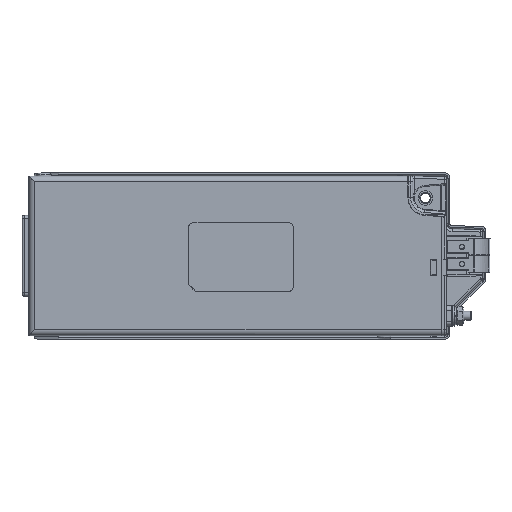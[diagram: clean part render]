
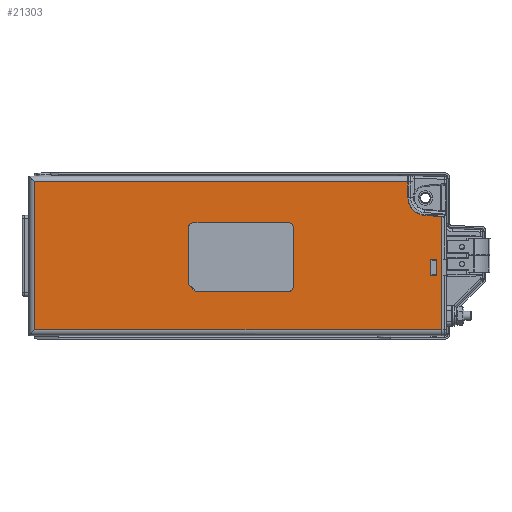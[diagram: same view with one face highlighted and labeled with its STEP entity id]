
A CAD part, top view. The second image highlights one B-rep face of the part: STEP entity #21303.
In plain terms, the highlighted planar face has unit normal (0, 0, 1).
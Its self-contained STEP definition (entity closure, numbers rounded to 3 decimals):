
#580=FACE_BOUND('',#3222,.T.);
#581=FACE_BOUND('',#3223,.T.);
#892=PLANE('',#22784);
#2028=FACE_OUTER_BOUND('',#3221,.T.);
#3221=EDGE_LOOP('',(#15912,#15913,#15914,#15915,#15916,#15917,#15918,#15919));
#3222=EDGE_LOOP('',(#15920,#15921,#15922,#15923));
#3223=EDGE_LOOP('',(#15924,#15925,#15926,#15927,#15928,#15929,#15930,#15931,
#15932,#15933));
#4848=LINE('',#32958,#6939);
#4852=LINE('',#32970,#6943);
#4856=LINE('',#32981,#6947);
#4860=LINE('',#32989,#6951);
#4863=LINE('',#32993,#6954);
#4864=LINE('',#32998,#6955);
#4865=LINE('',#33000,#6956);
#4866=LINE('',#33002,#6957);
#4867=LINE('',#33004,#6958);
#4868=LINE('',#33006,#6959);
#4869=LINE('',#33010,#6960);
#4870=LINE('',#33011,#6961);
#4871=LINE('',#33014,#6962);
#4872=LINE('',#33016,#6963);
#4873=LINE('',#33018,#6964);
#4874=LINE('',#33019,#6965);
#4875=LINE('',#33020,#6966);
#4876=LINE('',#33021,#6967);
#6939=VECTOR('',#26229,10.);
#6943=VECTOR('',#26241,10.);
#6947=VECTOR('',#26253,10.);
#6951=VECTOR('',#26259,10.);
#6954=VECTOR('',#26264,10.);
#6955=VECTOR('',#26269,10.);
#6956=VECTOR('',#26270,10.);
#6957=VECTOR('',#26271,10.);
#6958=VECTOR('',#26272,10.);
#6959=VECTOR('',#26273,10.);
#6960=VECTOR('',#26276,10.);
#6961=VECTOR('',#26277,10.);
#6962=VECTOR('',#26278,10.);
#6963=VECTOR('',#26279,10.);
#6964=VECTOR('',#26280,10.);
#6965=VECTOR('',#26281,10.);
#6966=VECTOR('',#26282,10.);
#6967=VECTOR('',#26283,10.);
#8378=CIRCLE('',#22771,2.);
#8380=CIRCLE('',#22775,2.);
#8382=CIRCLE('',#22779,2.);
#8383=CIRCLE('',#22785,7.7);
#9534=VERTEX_POINT('',#32935);
#9538=VERTEX_POINT('',#32942);
#9539=VERTEX_POINT('',#32944);
#9542=VERTEX_POINT('',#32951);
#9543=VERTEX_POINT('',#32953);
#9544=VERTEX_POINT('',#32957);
#9547=VERTEX_POINT('',#32965);
#9548=VERTEX_POINT('',#32969);
#9551=VERTEX_POINT('',#32977);
#9554=VERTEX_POINT('',#32988);
#9555=VERTEX_POINT('',#32996);
#9556=VERTEX_POINT('',#32997);
#9557=VERTEX_POINT('',#32999);
#9558=VERTEX_POINT('',#33001);
#9559=VERTEX_POINT('',#33003);
#9560=VERTEX_POINT('',#33005);
#9561=VERTEX_POINT('',#33007);
#9562=VERTEX_POINT('',#33009);
#9563=VERTEX_POINT('',#33012);
#9564=VERTEX_POINT('',#33013);
#9565=VERTEX_POINT('',#33015);
#9566=VERTEX_POINT('',#33017);
#11836=EDGE_CURVE('',#9543,#9542,#8378,.T.);
#11838=EDGE_CURVE('',#9544,#9543,#4848,.T.);
#11842=EDGE_CURVE('',#9547,#9544,#8380,.T.);
#11844=EDGE_CURVE('',#9548,#9547,#4852,.T.);
#11848=EDGE_CURVE('',#9551,#9548,#8382,.T.);
#11850=EDGE_CURVE('',#9534,#9551,#4856,.T.);
#11854=EDGE_CURVE('',#9554,#9538,#4860,.T.);
#11857=EDGE_CURVE('',#9542,#9554,#4863,.T.);
#11858=EDGE_CURVE('',#9555,#9556,#4864,.T.);
#11859=EDGE_CURVE('',#9556,#9557,#4865,.T.);
#11860=EDGE_CURVE('',#9558,#9557,#4866,.T.);
#11861=EDGE_CURVE('',#9559,#9558,#4867,.T.);
#11862=EDGE_CURVE('',#9559,#9560,#4868,.T.);
#11863=EDGE_CURVE('',#9560,#9561,#8383,.T.);
#11864=EDGE_CURVE('',#9561,#9562,#4869,.T.);
#11865=EDGE_CURVE('',#9562,#9555,#4870,.T.);
#11866=EDGE_CURVE('',#9563,#9564,#4871,.T.);
#11867=EDGE_CURVE('',#9564,#9565,#4872,.T.);
#11868=EDGE_CURVE('',#9565,#9566,#4873,.T.);
#11869=EDGE_CURVE('',#9566,#9563,#4874,.T.);
#11870=EDGE_CURVE('',#9538,#9539,#4875,.T.);
#11871=EDGE_CURVE('',#9539,#9534,#4876,.T.);
#15912=ORIENTED_EDGE('',*,*,#11858,.T.);
#15913=ORIENTED_EDGE('',*,*,#11859,.T.);
#15914=ORIENTED_EDGE('',*,*,#11860,.F.);
#15915=ORIENTED_EDGE('',*,*,#11861,.F.);
#15916=ORIENTED_EDGE('',*,*,#11862,.T.);
#15917=ORIENTED_EDGE('',*,*,#11863,.T.);
#15918=ORIENTED_EDGE('',*,*,#11864,.T.);
#15919=ORIENTED_EDGE('',*,*,#11865,.T.);
#15920=ORIENTED_EDGE('',*,*,#11866,.T.);
#15921=ORIENTED_EDGE('',*,*,#11867,.T.);
#15922=ORIENTED_EDGE('',*,*,#11868,.T.);
#15923=ORIENTED_EDGE('',*,*,#11869,.T.);
#15924=ORIENTED_EDGE('',*,*,#11850,.T.);
#15925=ORIENTED_EDGE('',*,*,#11848,.T.);
#15926=ORIENTED_EDGE('',*,*,#11844,.T.);
#15927=ORIENTED_EDGE('',*,*,#11842,.T.);
#15928=ORIENTED_EDGE('',*,*,#11838,.T.);
#15929=ORIENTED_EDGE('',*,*,#11836,.T.);
#15930=ORIENTED_EDGE('',*,*,#11857,.T.);
#15931=ORIENTED_EDGE('',*,*,#11854,.T.);
#15932=ORIENTED_EDGE('',*,*,#11870,.T.);
#15933=ORIENTED_EDGE('',*,*,#11871,.T.);
#21303=ADVANCED_FACE('',(#2028,#580,#581),#892,.T.);
#22771=AXIS2_PLACEMENT_3D('',#32954,#26224,#26225);
#22775=AXIS2_PLACEMENT_3D('',#32966,#26236,#26237);
#22779=AXIS2_PLACEMENT_3D('',#32978,#26248,#26249);
#22784=AXIS2_PLACEMENT_3D('',#32995,#26267,#26268);
#22785=AXIS2_PLACEMENT_3D('',#33008,#26274,#26275);
#26224=DIRECTION('center_axis',(0.,0.,
-1.));
#26225=DIRECTION('ref_axis',(0.707,-0.707,0.));
#26229=DIRECTION('',(0.,-1.,0.));
#26236=DIRECTION('center_axis',(0.,0.,
-1.));
#26237=DIRECTION('ref_axis',(0.707,0.707,0.));
#26241=DIRECTION('',(1.,0.,0.));
#26248=DIRECTION('center_axis',(0.,0.,
-1.));
#26249=DIRECTION('ref_axis',(-0.707,0.707,0.));
#26253=DIRECTION('',(0.,1.,0.));
#26259=DIRECTION('',(-0.707,0.707,0.));
#26264=DIRECTION('',(-1.,0.,0.));
#26267=DIRECTION('center_axis',(0.,0.,
1.));
#26268=DIRECTION('ref_axis',(0.,-1.,0.));
#26269=DIRECTION('',(0.,-1.,0.));
#26270=DIRECTION('',(1.,0.,0.));
#26271=DIRECTION('',(0.,-1.,0.));
#26272=DIRECTION('',(0.676,-0.737,0.));
#26273=DIRECTION('',(-0.996,0.087,0.));
#26274=DIRECTION('center_axis',(0.,0.,
-1.));
#26275=DIRECTION('ref_axis',(-1.,0.,0.));
#26276=DIRECTION('',(0.,1.,0.));
#26277=DIRECTION('',(-1.,0.,0.));
#26278=DIRECTION('',(-1.,0.,0.));
#26279=DIRECTION('',(0.,1.,0.));
#26280=DIRECTION('',(1.,0.,0.));
#26281=DIRECTION('',(0.,-1.,0.));
#26282=DIRECTION('',(-0.707,0.707,0.));
#26283=DIRECTION('',(0.,1.,0.));
#32935=CARTESIAN_POINT('',(-20.,-9.025,34.9));
#32942=CARTESIAN_POINT('',(-17.525,-15.,34.9));
#32944=CARTESIAN_POINT('',(-20.,-12.525,34.9));
#32951=CARTESIAN_POINT('',(24.,-15.525,34.9));
#32953=CARTESIAN_POINT('',(26.,-13.525,34.9));
#32954=CARTESIAN_POINT('Origin',(24.,-13.525,34.9));
#32957=CARTESIAN_POINT('',(26.,12.475,34.9));
#32958=CARTESIAN_POINT('',(26.,7.237,34.9));
#32965=CARTESIAN_POINT('',(24.,14.475,34.9));
#32966=CARTESIAN_POINT('Origin',(24.,12.475,34.9));
#32969=CARTESIAN_POINT('',(-18.,14.475,34.9));
#32970=CARTESIAN_POINT('',(-9.75,14.475,34.9));
#32977=CARTESIAN_POINT('',(-20.,12.475,34.9));
#32978=CARTESIAN_POINT('Origin',(-18.,12.475,34.9));
#32981=CARTESIAN_POINT('',(-20.,-7.763,34.9));
#32988=CARTESIAN_POINT('',(-17.,-15.525,34.9));
#32989=CARTESIAN_POINT('',(-17.256,-15.269,34.9));
#32993=CARTESIAN_POINT('',(13.25,-15.525,34.9));
#32995=CARTESIAN_POINT('Origin',(0.5,0.,
34.9));
#32996=CARTESIAN_POINT('',(-87.5,32.5,34.9));
#32997=CARTESIAN_POINT('',(-87.5,-32.5,34.9));
#32998=CARTESIAN_POINT('',(-87.5,-16.25,34.9));
#32999=CARTESIAN_POINT('',(91.,-32.5,34.9));
#33000=CARTESIAN_POINT('',(-44.75,-32.5,34.9));
#33001=CARTESIAN_POINT('',(91.,16.658,34.9));
#33002=CARTESIAN_POINT('',(91.,35.,34.9));
#33003=CARTESIAN_POINT('',(90.502,17.202,34.9));
#33004=CARTESIAN_POINT('',(74.371,34.805,34.9));
#33005=CARTESIAN_POINT('',(83.329,17.829,34.9));
#33006=CARTESIAN_POINT('',(46.839,21.022,34.9));
#33007=CARTESIAN_POINT('',(76.3,25.5,34.9));
#33008=CARTESIAN_POINT('Origin',(84.,25.5,34.9));
#33009=CARTESIAN_POINT('',(76.3,32.5,34.9));
#33010=CARTESIAN_POINT('',(76.3,12.75,34.9));
#33011=CARTESIAN_POINT('',(45.75,32.5,34.9));
#33012=CARTESIAN_POINT('',(89.,-8.5,34.9));
#33013=CARTESIAN_POINT('',(86.,-8.5,34.9));
#33014=CARTESIAN_POINT('',(44.75,-8.5,34.9));
#33015=CARTESIAN_POINT('',(86.,-1.5,34.9));
#33016=CARTESIAN_POINT('',(86.,-4.25,34.9));
#33017=CARTESIAN_POINT('',(89.,-1.5,34.9));
#33018=CARTESIAN_POINT('',(43.25,-1.5,34.9));
#33019=CARTESIAN_POINT('',(89.,-0.75,34.9));
#33020=CARTESIAN_POINT('',(-16.769,-15.756,34.9));
#33021=CARTESIAN_POINT('',(-20.,-6.263,34.9));
